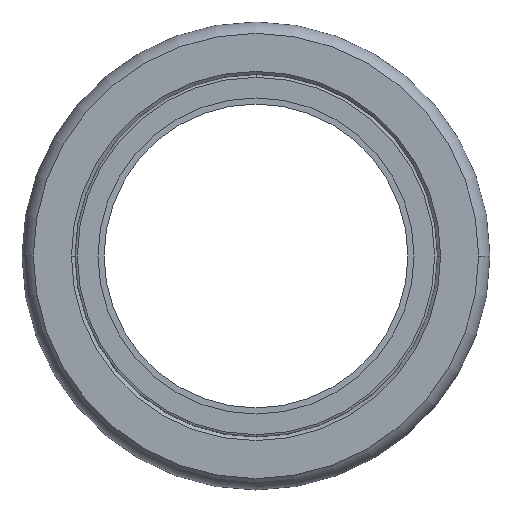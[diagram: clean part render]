
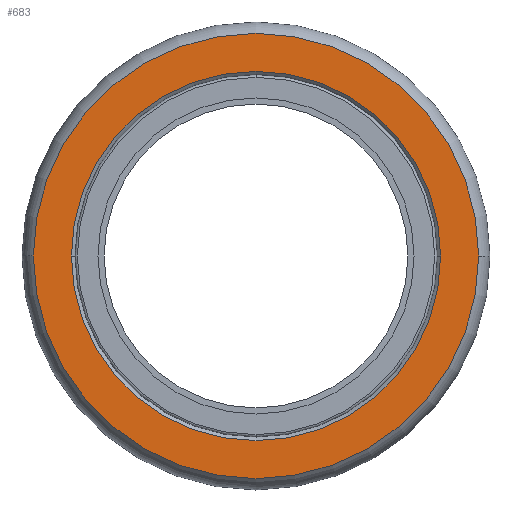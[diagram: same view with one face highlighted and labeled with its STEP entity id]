
A CAD part, left-side view. The second image highlights one B-rep face of the part: STEP entity #683.
In plain terms, the highlighted planar face has unit normal (-1, 0, 0).
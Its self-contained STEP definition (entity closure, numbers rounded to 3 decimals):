
#152=CARTESIAN_POINT('',(2.05,0.,0.));
#153=DIRECTION('',(1.,0.,0.));
#154=DIRECTION('',(0.,1.,0.));
#155=AXIS2_PLACEMENT_3D('',#152,#153,#154);
#174=CARTESIAN_POINT('',(2.05,0.,0.));
#175=DIRECTION('',(1.,0.,0.));
#176=DIRECTION('',(0.,-1.,0.));
#177=AXIS2_PLACEMENT_3D('',#174,#175,#176);
#196=CARTESIAN_POINT('',(2.05,0.,0.));
#197=DIRECTION('',(-1.,0.,0.));
#198=DIRECTION('',(0.,-1.,0.));
#199=AXIS2_PLACEMENT_3D('',#196,#197,#198);
#292=CARTESIAN_POINT('',(2.05,0.,0.));
#293=DIRECTION('',(-1.,0.,0.));
#294=DIRECTION('',(0.,1.,0.));
#295=AXIS2_PLACEMENT_3D('',#292,#293,#294);
#342=CARTESIAN_POINT('',(2.05,18.314,0.));
#343=CARTESIAN_POINT('',(2.05,-18.314,0.));
#344=VERTEX_POINT('',#342);
#345=VERTEX_POINT('',#343);
#346=CARTESIAN_POINT('',(2.05,-15.186,0.));
#347=CARTESIAN_POINT('',(2.05,15.186,0.));
#348=VERTEX_POINT('',#346);
#349=VERTEX_POINT('',#347);
#668=CARTESIAN_POINT('',(2.05,0.,0.));
#669=DIRECTION('',(-1.,0.,0.));
#670=DIRECTION('',(0.,1.,0.));
#671=AXIS2_PLACEMENT_3D('',#668,#669,#670);
#672=PLANE('',#671);
#673=ORIENTED_EDGE('',*,*,#617,.T.);
#674=ORIENTED_EDGE('',*,*,#654,.T.);
#675=EDGE_LOOP('',(#673,#674));
#676=FACE_OUTER_BOUND('',#675,.F.);
#678=ORIENTED_EDGE('',*,*,#677,.T.);
#680=ORIENTED_EDGE('',*,*,#679,.T.);
#681=EDGE_LOOP('',(#678,#680));
#682=FACE_BOUND('',#681,.F.);
#156=CIRCLE('',#155,18.314);
#178=CIRCLE('',#177,18.314);
#200=CIRCLE('',#199,15.186);
#296=CIRCLE('',#295,15.186);
#617=EDGE_CURVE('',#344,#345,#156,.T.);
#654=EDGE_CURVE('',#345,#344,#178,.T.);
#677=EDGE_CURVE('',#348,#349,#200,.T.);
#679=EDGE_CURVE('',#349,#348,#296,.T.);
#683=ADVANCED_FACE('',(#676,#682),#672,.T.);
